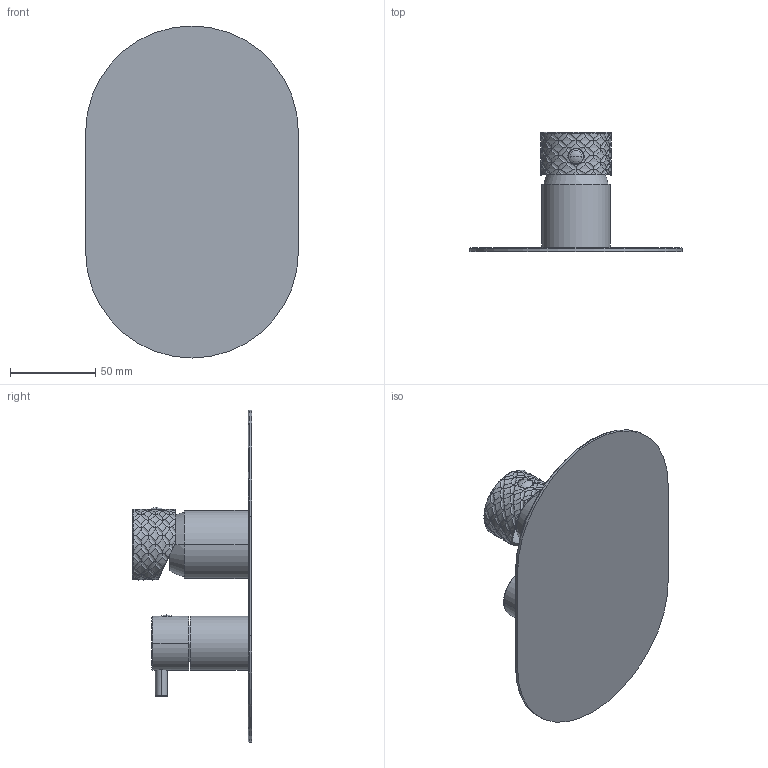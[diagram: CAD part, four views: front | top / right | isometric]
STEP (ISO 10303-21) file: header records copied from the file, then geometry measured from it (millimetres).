
FILE_DESCRIPTION((''),'2;1');
FILE_NAME('12531S_SW0001','2025-02-11T11:09:11',('carloff'),(''),'CREO PARAMETRIC BY PTC INC, 2022014','CREO PARAMETRIC BY PTC INC, 2022014','');
FILE_SCHEMA(('CONFIG_CONTROL_DESIGN'));
Length unit declared in the file: millimetre
Products named in the file (1): 12531S_SW0001
Bounding box: 125 x 70 x 195 mm (x, y, z)
Volume: 154211.6 mm3; surface area: 65573.1 mm2
Topology: 1 solids, 2 shells, 410 faces, 1125 edges, 711 vertices
Faces by surface type: bspline 156, cylinder 117, plane 78, torus 38, cone 17, sphere 4
Entity records: 20275 total; most frequent: CARTESIAN_POINT 11610, ORIENTED_EDGE 2234, EDGE_CURVE 1117, DIRECTION 1116, VERTEX_POINT 711, B_SPLINE_CURVE_WITH_KNOTS 711, AXIS2_PLACEMENT_3D 456, EDGE_LOOP 422
